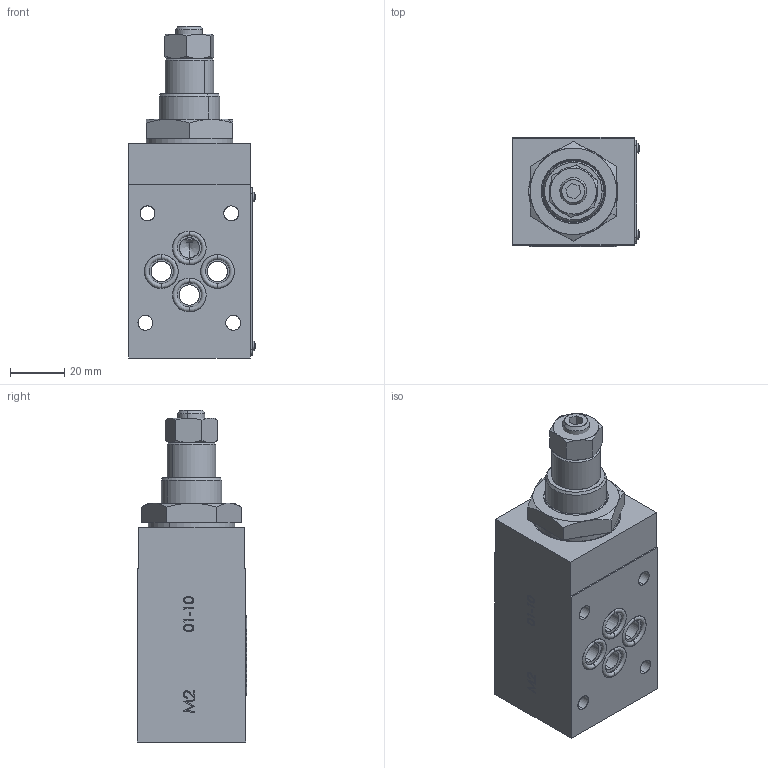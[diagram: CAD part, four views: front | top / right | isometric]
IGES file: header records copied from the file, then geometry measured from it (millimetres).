
Start section: SolidWorks IGES file using analytic representation for surfaces
Global section: file name: C:\Users\user\Desktop\FT358-5-A-03-H.IGS; native system: SolidWorks 2014; preprocessor: SolidWorks 2014; author: user; date: 140618.082741; units: millimetre
Bounding box: 46.96 x 40.38 x 122.8 mm (x, y, z)
Surface area: 49776.3 mm2 (no closed solid volume)
Topology: 0 solids, 0 shells, 1785 faces, 21203 edges, 21189 vertices
Faces by surface type: bspline 1393, revolution 392
